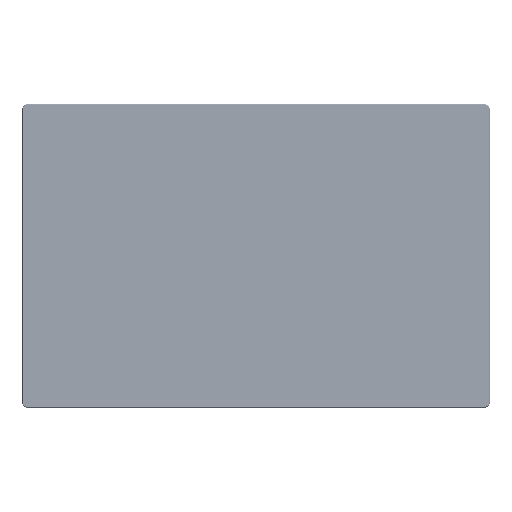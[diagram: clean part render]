
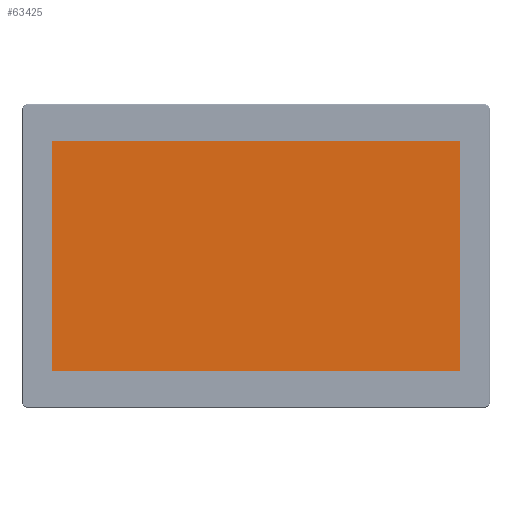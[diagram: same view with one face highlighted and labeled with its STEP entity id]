
A CAD part, top view. The second image highlights one B-rep face of the part: STEP entity #63425.
In plain terms, the highlighted planar face has unit normal (0, 0, 1) as drawn and (0, 1, 0) by its records, which use the part's own axes.
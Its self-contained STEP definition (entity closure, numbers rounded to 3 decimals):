
#7667 = DIRECTION ( 'NONE',  ( 0., 0., -1. ) ) ;
#7857 = EDGE_CURVE ( 'NONE', #49407, #133029, #42892, .T. ) ;
#10043 = CARTESIAN_POINT ( 'NONE',  ( -238.13, 1.8, -174.5 ) ) ;
#12340 = CARTESIAN_POINT ( 'NONE',  ( 238.13, 1.8, 133.86 ) ) ;
#17938 = CARTESIAN_POINT ( 'NONE',  ( 270.5, 1.8, 133.86 ) ) ;
#25169 = FACE_OUTER_BOUND ( 'NONE', #138918, .T. ) ;
#38144 = VERTEX_POINT ( 'NONE', #12340 ) ;
#42865 = EDGE_CURVE ( 'NONE', #133029, #78537, #55448, .T. ) ;
#42892 = LINE ( 'NONE', #136799, #110688 ) ;
#44112 = DIRECTION ( 'NONE',  ( 0., 0., 1. ) ) ;
#47700 = LINE ( 'NONE', #17938, #124978 ) ;
#49407 = VERTEX_POINT ( 'NONE', #91357 ) ;
#55448 = LINE ( 'NONE', #10043, #66928 ) ;
#56934 = ORIENTED_EDGE ( 'NONE', *, *, #7857, .T. ) ;
#58666 = CARTESIAN_POINT ( 'NONE',  ( 238.13, 1.8, -174.5 ) ) ;
#62679 = VECTOR ( 'NONE', #139028, 1000. ) ;
#63275 = ORIENTED_EDGE ( 'NONE', *, *, #135087, .T. ) ;
#63425 = ADVANCED_FACE ( 'NONE', ( #25169 ), #107005, .F. ) ;
#63780 = EDGE_CURVE ( 'NONE', #78537, #38144, #47700, .T. ) ;
#66928 = VECTOR ( 'NONE', #44112, 1000. ) ;
#76505 = ORIENTED_EDGE ( 'NONE', *, *, #63780, .T. ) ;
#78537 = VERTEX_POINT ( 'NONE', #81423 ) ;
#79212 = DIRECTION ( 'NONE',  ( -1., 0., 0. ) ) ;
#81423 = CARTESIAN_POINT ( 'NONE',  ( -238.13, 1.8, 133.86 ) ) ;
#91357 = CARTESIAN_POINT ( 'NONE',  ( 238.13, 1.8, -134.36 ) ) ;
#93905 = DIRECTION ( 'NONE',  ( 1., 0., 0. ) ) ;
#99308 = CARTESIAN_POINT ( 'NONE',  ( 270.5, 1.8, -174.5 ) ) ;
#107005 = PLANE ( 'NONE',  #134494 ) ;
#110688 = VECTOR ( 'NONE', #79212, 1000. ) ;
#124978 = VECTOR ( 'NONE', #93905, 1000. ) ;
#133029 = VERTEX_POINT ( 'NONE', #136003 ) ;
#134177 = DIRECTION ( 'NONE',  ( 0., -1., 0. ) ) ;
#134494 = AXIS2_PLACEMENT_3D ( 'NONE', #99308, #134177, #7667 ) ;
#135087 = EDGE_CURVE ( 'NONE', #38144, #49407, #148915, .T. ) ;
#136003 = CARTESIAN_POINT ( 'NONE',  ( -238.13, 1.8, -134.36 ) ) ;
#136799 = CARTESIAN_POINT ( 'NONE',  ( 270.5, 1.8, -134.36 ) ) ;
#138003 = ORIENTED_EDGE ( 'NONE', *, *, #42865, .T. ) ;
#138918 = EDGE_LOOP ( 'NONE', ( #76505, #63275, #56934, #138003 ) ) ;
#139028 = DIRECTION ( 'NONE',  ( 0., 0., -1. ) ) ;
#148915 = LINE ( 'NONE', #58666, #62679 ) ;
